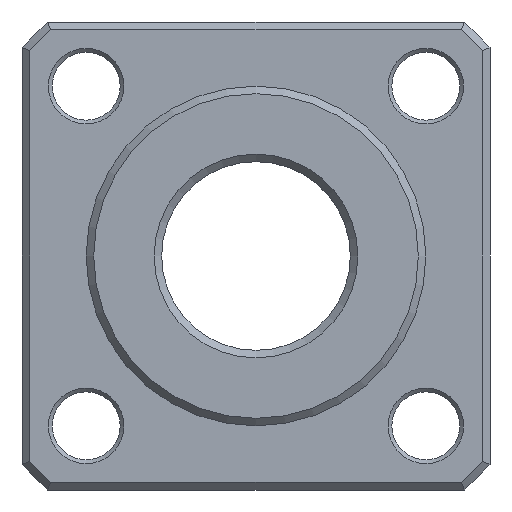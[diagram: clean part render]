
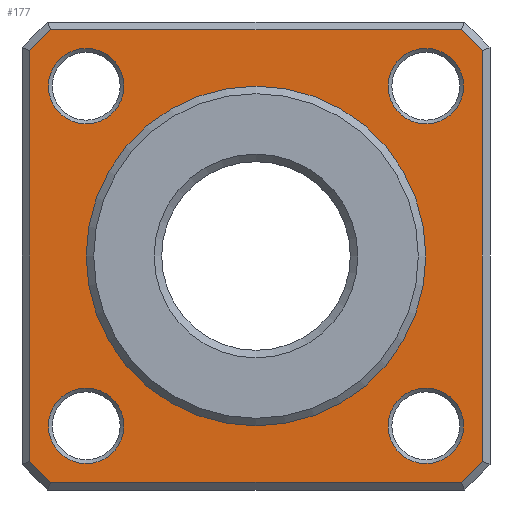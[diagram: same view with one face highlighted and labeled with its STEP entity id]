
A CAD part, left-side view. The second image highlights one B-rep face of the part: STEP entity #177.
In plain terms, the highlighted planar face has unit normal (-1, 0, 0).
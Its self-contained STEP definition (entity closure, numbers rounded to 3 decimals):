
#177=ADVANCED_FACE('',(#252,#253,#254,#255,#256,#257),#258,.F.);
#252=FACE_BOUND('',#419,.T.);
#253=FACE_BOUND('',#420,.T.);
#254=FACE_BOUND('',#421,.T.);
#255=FACE_BOUND('',#422,.T.);
#256=FACE_BOUND('',#423,.T.);
#257=FACE_OUTER_BOUND('',#424,.T.);
#258=PLANE('',#425);
#419=EDGE_LOOP('',(#594));
#420=EDGE_LOOP('',(#595));
#421=EDGE_LOOP('',(#596));
#422=EDGE_LOOP('',(#597));
#423=EDGE_LOOP('',(#598));
#424=EDGE_LOOP('',(#599,#600,#601,#602,#603,#604,#605,#606));
#425=AXIS2_PLACEMENT_3D('',#607,#608,#609);
#594=ORIENTED_EDGE('',*,*,#989,.T.);
#595=ORIENTED_EDGE('',*,*,#990,.T.);
#596=ORIENTED_EDGE('',*,*,#991,.T.);
#597=ORIENTED_EDGE('',*,*,#992,.T.);
#598=ORIENTED_EDGE('',*,*,#988,.F.);
#599=ORIENTED_EDGE('',*,*,#993,.T.);
#600=ORIENTED_EDGE('',*,*,#994,.T.);
#601=ORIENTED_EDGE('',*,*,#995,.T.);
#602=ORIENTED_EDGE('',*,*,#996,.T.);
#603=ORIENTED_EDGE('',*,*,#997,.T.);
#604=ORIENTED_EDGE('',*,*,#998,.T.);
#605=ORIENTED_EDGE('',*,*,#999,.T.);
#606=ORIENTED_EDGE('',*,*,#1000,.T.);
#607=CARTESIAN_POINT('',(0.,41.5,0.0));
#608=DIRECTION('',(1.0,0.0,0.0));
#609=DIRECTION('',(0.0,0.0,-1.0));
#988=EDGE_CURVE('',#1106,#1106,#1107,.T.);
#989=EDGE_CURVE('',#1108,#1108,#1109,.T.);
#990=EDGE_CURVE('',#1110,#1110,#1111,.T.);
#991=EDGE_CURVE('',#1112,#1112,#1113,.T.);
#992=EDGE_CURVE('',#1114,#1114,#1115,.T.);
#993=EDGE_CURVE('',#1116,#1117,#1118,.F.);
#994=EDGE_CURVE('',#1117,#1119,#1120,.T.);
#995=EDGE_CURVE('',#1119,#1121,#1122,.F.);
#996=EDGE_CURVE('',#1121,#1123,#1124,.T.);
#997=EDGE_CURVE('',#1123,#1125,#1126,.F.);
#998=EDGE_CURVE('',#1125,#1127,#1128,.T.);
#999=EDGE_CURVE('',#1127,#1129,#1130,.F.);
#1000=EDGE_CURVE('',#1129,#1116,#1131,.T.);
#1106=VERTEX_POINT('',#1412);
#1107=CIRCLE('',#1413,22.5);
#1108=VERTEX_POINT('',#1414);
#1109=CIRCLE('',#1415,5.0);
#1110=VERTEX_POINT('',#1416);
#1111=CIRCLE('',#1417,5.0);
#1112=VERTEX_POINT('',#1418);
#1113=CIRCLE('',#1419,5.0);
#1114=VERTEX_POINT('',#1420);
#1115=CIRCLE('',#1421,5.0);
#1116=VERTEX_POINT('',#1422);
#1117=VERTEX_POINT('',#1423);
#1118=CIRCLE('',#1424,40.5);
#1119=VERTEX_POINT('',#1425);
#1120=LINE('',#1426,#1427);
#1121=VERTEX_POINT('',#1428);
#1122=CIRCLE('',#1429,40.5);
#1123=VERTEX_POINT('',#1430);
#1124=LINE('',#1431,#1432);
#1125=VERTEX_POINT('',#1433);
#1126=CIRCLE('',#1434,40.5);
#1127=VERTEX_POINT('',#1435);
#1128=LINE('',#1436,#1437);
#1129=VERTEX_POINT('',#1438);
#1130=CIRCLE('',#1439,40.5);
#1131=LINE('',#1440,#1441);
#1412=CARTESIAN_POINT('',(0.0,0.0,22.5));
#1413=AXIS2_PLACEMENT_3D('',#1689,#1690,#1691);
#1414=CARTESIAN_POINT('',(0.,-22.5,-27.5));
#1415=AXIS2_PLACEMENT_3D('',#1692,#1693,#1694);
#1416=CARTESIAN_POINT('',(0.,22.5,-27.5));
#1417=AXIS2_PLACEMENT_3D('',#1695,#1696,#1697);
#1418=CARTESIAN_POINT('',(0.,22.5,17.5));
#1419=AXIS2_PLACEMENT_3D('',#1698,#1699,#1700);
#1420=CARTESIAN_POINT('',(0.,-22.5,17.5));
#1421=AXIS2_PLACEMENT_3D('',#1701,#1702,#1703);
#1422=CARTESIAN_POINT('',(0.,-30.0,27.208));
#1423=CARTESIAN_POINT('',(0.,-27.208,30.0));
#1424=AXIS2_PLACEMENT_3D('',#1704,#1705,#1706);
#1425=CARTESIAN_POINT('',(0.,27.208,30.0));
#1426=CARTESIAN_POINT('',(0.,26.062,30.0));
#1427=VECTOR('',#1707,1.0);
#1428=CARTESIAN_POINT('',(0.,30.0,27.208));
#1429=AXIS2_PLACEMENT_3D('',#1708,#1709,#1710);
#1430=CARTESIAN_POINT('',(0.,30.0,-27.208));
#1431=CARTESIAN_POINT('',(0.,30.0,-26.062));
#1432=VECTOR('',#1711,1.0);
#1433=CARTESIAN_POINT('',(0.,27.208,-30.0));
#1434=AXIS2_PLACEMENT_3D('',#1712,#1713,#1714);
#1435=CARTESIAN_POINT('',(0.,-27.208,-30.0));
#1436=CARTESIAN_POINT('',(0.,-26.062,-30.0));
#1437=VECTOR('',#1715,1.0);
#1438=CARTESIAN_POINT('',(0.,-30.0,-27.208));
#1439=AXIS2_PLACEMENT_3D('',#1716,#1717,#1718);
#1440=CARTESIAN_POINT('',(0.,-30.0,26.062));
#1441=VECTOR('',#1719,1.0);
#1689=CARTESIAN_POINT('',(0.0,0.0,0.0));
#1690=DIRECTION('',(-1.0,0.0,0.0));
#1691=DIRECTION('',(0.0,0.0,1.0));
#1692=CARTESIAN_POINT('',(0.,-22.5,-22.5));
#1693=DIRECTION('',(1.0,0.0,0.0));
#1694=DIRECTION('',(0.0,0.0,-1.0));
#1695=CARTESIAN_POINT('',(0.,22.5,-22.5));
#1696=DIRECTION('',(1.0,0.0,0.0));
#1697=DIRECTION('',(0.0,0.0,-1.0));
#1698=CARTESIAN_POINT('',(0.,22.5,22.5));
#1699=DIRECTION('',(1.0,0.0,0.0));
#1700=DIRECTION('',(0.0,0.0,-1.0));
#1701=CARTESIAN_POINT('',(0.,-22.5,22.5));
#1702=DIRECTION('',(1.0,0.0,0.0));
#1703=DIRECTION('',(0.0,0.0,-1.0));
#1704=CARTESIAN_POINT('',(0.,0.0,0.0));
#1705=DIRECTION('',(1.0,0.0,0.0));
#1706=DIRECTION('',(0.0,0.0,-1.0));
#1707=DIRECTION('',(0.0,1.0,0.0));
#1708=CARTESIAN_POINT('',(0.,0.0,0.0));
#1709=DIRECTION('',(1.0,0.0,0.0));
#1710=DIRECTION('',(0.0,0.0,-1.0));
#1711=DIRECTION('',(0.0,0.0,-1.0));
#1712=CARTESIAN_POINT('',(0.,0.0,0.0));
#1713=DIRECTION('',(1.0,0.0,0.0));
#1714=DIRECTION('',(0.0,0.0,-1.0));
#1715=DIRECTION('',(0.0,-1.0,0.0));
#1716=CARTESIAN_POINT('',(0.,0.0,0.0));
#1717=DIRECTION('',(1.0,0.0,0.0));
#1718=DIRECTION('',(0.0,0.0,-1.0));
#1719=DIRECTION('',(0.0,0.0,1.0));
